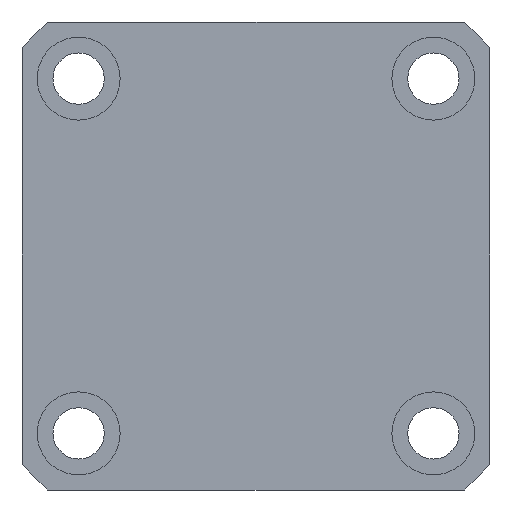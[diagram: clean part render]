
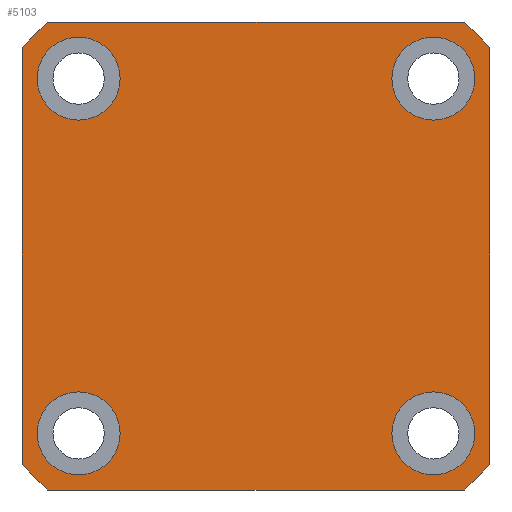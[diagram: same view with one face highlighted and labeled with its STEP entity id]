
A CAD part, left-side view. The second image highlights one B-rep face of the part: STEP entity #5103.
In plain terms, the highlighted planar face has unit normal (-1, 0, 0).
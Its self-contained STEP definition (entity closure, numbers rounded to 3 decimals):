
#2589=PLANE('',#11840);
#3352=LINE('',#17099,#4132);
#3361=LINE('',#18665,#4141);
#3363=LINE('',#18671,#4143);
#3364=LINE('',#18676,#4144);
#4132=VECTOR('',#12282,1.);
#4141=VECTOR('',#12449,1.);
#4143=VECTOR('',#12455,1.);
#4144=VECTOR('',#12460,1.);
#5103=ADVANCED_FACE('',(#6109,#6110,#6111,#6112,#6113),#2589,.F.);
#6109=FACE_BOUND('',#6318,.T.);
#6110=FACE_BOUND('',#6319,.T.);
#6111=FACE_BOUND('',#6320,.T.);
#6112=FACE_BOUND('',#6321,.T.);
#6113=FACE_BOUND('',#6322,.T.);
#6318=EDGE_LOOP('',(#7106,#7107,#7108,#7109,#7110,#7111,#7112,#7113));
#6319=EDGE_LOOP('',(#7114));
#6320=EDGE_LOOP('',(#7115));
#6321=EDGE_LOOP('',(#7116));
#6322=EDGE_LOOP('',(#7117));
#7106=ORIENTED_EDGE('',*,*,#10507,.F.);
#7107=ORIENTED_EDGE('',*,*,#10508,.F.);
#7108=ORIENTED_EDGE('',*,*,#10509,.F.);
#7109=ORIENTED_EDGE('',*,*,#10400,.F.);
#7110=ORIENTED_EDGE('',*,*,#10510,.F.);
#7111=ORIENTED_EDGE('',*,*,#10511,.F.);
#7112=ORIENTED_EDGE('',*,*,#10512,.F.);
#7113=ORIENTED_EDGE('',*,*,#10505,.F.);
#7114=ORIENTED_EDGE('',*,*,#10402,.F.);
#7115=ORIENTED_EDGE('',*,*,#10404,.F.);
#7116=ORIENTED_EDGE('',*,*,#10406,.F.);
#7117=ORIENTED_EDGE('',*,*,#10408,.F.);
#9485=VERTEX_POINT('',#17098);
#9486=VERTEX_POINT('',#17100);
#9487=VERTEX_POINT('',#17104);
#9489=VERTEX_POINT('',#17109);
#9491=VERTEX_POINT('',#17114);
#9493=VERTEX_POINT('',#17119);
#9580=VERTEX_POINT('',#18664);
#9581=VERTEX_POINT('',#18666);
#9582=VERTEX_POINT('',#18670);
#9583=VERTEX_POINT('',#18672);
#9584=VERTEX_POINT('',#18675);
#9585=VERTEX_POINT('',#18677);
#10400=EDGE_CURVE('',#9485,#9486,#3352,.T.);
#10402=EDGE_CURVE('',#9487,#9487,#11623,.T.);
#10404=EDGE_CURVE('',#9489,#9489,#11625,.T.);
#10406=EDGE_CURVE('',#9491,#9491,#11627,.T.);
#10408=EDGE_CURVE('',#9493,#9493,#11629,.T.);
#10505=EDGE_CURVE('',#9580,#9581,#3361,.T.);
#10507=EDGE_CURVE('',#9582,#9580,#11670,.T.);
#10508=EDGE_CURVE('',#9583,#9582,#3363,.T.);
#10509=EDGE_CURVE('',#9486,#9583,#11671,.T.);
#10510=EDGE_CURVE('',#9584,#9485,#11672,.T.);
#10511=EDGE_CURVE('',#9585,#9584,#3364,.T.);
#10512=EDGE_CURVE('',#9581,#9585,#11673,.T.);
#11623=CIRCLE('',#11757,5.5);
#11625=CIRCLE('',#11760,5.5);
#11627=CIRCLE('',#11763,5.5);
#11629=CIRCLE('',#11766,5.5);
#11670=CIRCLE('',#11836,41.5);
#11671=CIRCLE('',#11837,41.5);
#11672=CIRCLE('',#11838,41.5);
#11673=CIRCLE('',#11839,41.5);
#11757=AXIS2_PLACEMENT_3D('',#17103,#12286,#12287);
#11760=AXIS2_PLACEMENT_3D('',#17108,#12292,#12293);
#11763=AXIS2_PLACEMENT_3D('',#17113,#12298,#12299);
#11766=AXIS2_PLACEMENT_3D('',#17118,#12304,#12305);
#11836=AXIS2_PLACEMENT_3D('',#18669,#12453,#12454);
#11837=AXIS2_PLACEMENT_3D('',#18673,#12456,#12457);
#11838=AXIS2_PLACEMENT_3D('',#18674,#12458,#12459);
#11839=AXIS2_PLACEMENT_3D('',#18678,#12461,#12462);
#11840=AXIS2_PLACEMENT_3D('',#18679,#12463,#12464);
#12282=DIRECTION('',(0.,0.,1.));
#12286=DIRECTION('',(-1.,0.,0.));
#12287=DIRECTION('',(0.,0.,1.));
#12292=DIRECTION('',(-1.,0.,0.));
#12293=DIRECTION('',(0.,0.,1.));
#12298=DIRECTION('',(-1.,0.,0.));
#12299=DIRECTION('',(0.,0.,1.));
#12304=DIRECTION('',(-1.,0.,0.));
#12305=DIRECTION('',(0.,0.,1.));
#12449=DIRECTION('',(0.,0.,-1.));
#12453=DIRECTION('',(1.,0.,0.));
#12454=DIRECTION('',(0.,0.,-1.));
#12455=DIRECTION('',(0.,-1.,0.));
#12456=DIRECTION('',(1.,0.,0.));
#12457=DIRECTION('',(0.,0.,-1.));
#12458=DIRECTION('',(1.,0.,0.));
#12459=DIRECTION('',(0.,0.,-1.));
#12460=DIRECTION('',(0.,1.,0.));
#12461=DIRECTION('',(1.,0.,0.));
#12462=DIRECTION('',(0.,0.,-1.));
#12463=DIRECTION('',(1.,0.,0.));
#12464=DIRECTION('',(0.,0.,1.));
#17098=CARTESIAN_POINT('',(0.,62.,-59.042));
#17099=CARTESIAN_POINT('',(0.,62.,-31.451));
#17100=CARTESIAN_POINT('',(0.,62.,-3.86));
#17103=CARTESIAN_POINT('',(0.,7.5,-54.951));
#17104=CARTESIAN_POINT('',(0.,7.5,-49.451));
#17108=CARTESIAN_POINT('',(0.,7.5,-7.951));
#17109=CARTESIAN_POINT('',(0.,7.5,-2.451));
#17113=CARTESIAN_POINT('',(0.,54.5,-7.951));
#17114=CARTESIAN_POINT('',(0.,54.5,-2.451));
#17118=CARTESIAN_POINT('',(0.,54.5,-54.951));
#17119=CARTESIAN_POINT('',(0.,54.5,-49.451));
#18664=CARTESIAN_POINT('',(0.,0.,-3.86));
#18665=CARTESIAN_POINT('',(0.,0.,-6.451));
#18666=CARTESIAN_POINT('',(0.,0.,-59.042));
#18669=CARTESIAN_POINT('',(0.,31.,-31.451));
#18670=CARTESIAN_POINT('',(0.,3.409,-0.451));
#18671=CARTESIAN_POINT('',(0.,31.,-0.451));
#18672=CARTESIAN_POINT('',(0.,58.591,-0.451));
#18673=CARTESIAN_POINT('',(0.,31.,-31.451));
#18674=CARTESIAN_POINT('',(0.,31.,-31.451));
#18675=CARTESIAN_POINT('',(0.,58.591,-62.451));
#18676=CARTESIAN_POINT('',(0.,31.,-62.451));
#18677=CARTESIAN_POINT('',(0.,3.409,-62.451));
#18678=CARTESIAN_POINT('',(0.,31.,-31.451));
#18679=CARTESIAN_POINT('',(0.,31.,-31.451));
